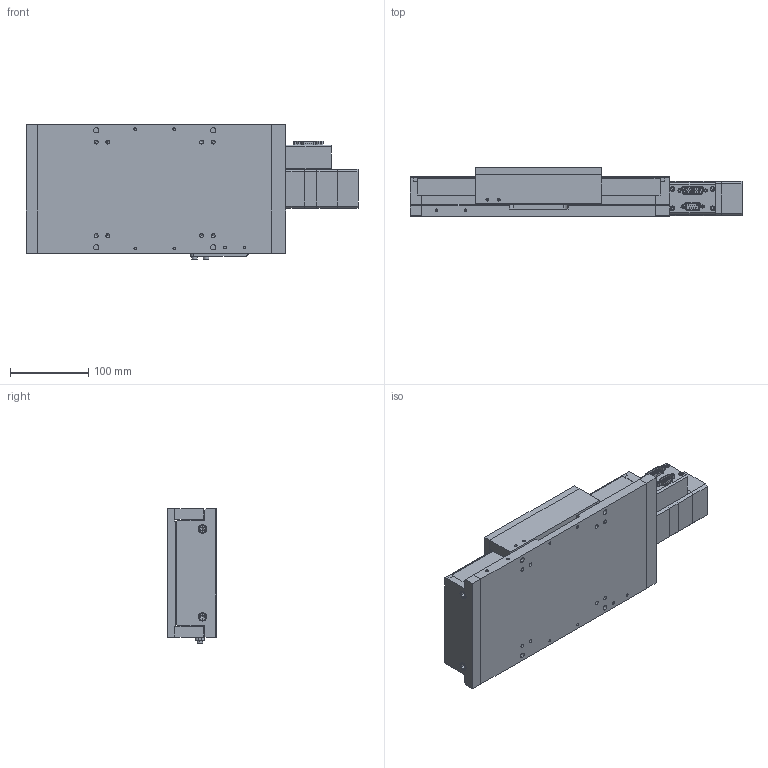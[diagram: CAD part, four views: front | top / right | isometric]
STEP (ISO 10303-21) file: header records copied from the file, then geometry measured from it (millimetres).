
FILE_DESCRIPTION (( 'STEP AP214' ), '1' );
FILE_NAME ('LM3-100-BS-A-H-S-G-EXPORT.STEP', '2024-05-07T14:56:46', ( 'lab' ), ( '' ), 'SwSTEP 2.0', 'SolidWorks 2018', '' );
FILE_SCHEMA (( 'AUTOMOTIVE_DESIGN' ));
Length unit declared in the file: millimetre
Products named in the file (17): 1000007; 1000012_100; 1000009; 1000001; 1000015; 1000004; 1000005; LM3-100-BS-A-H-S-G-EXPORT; 1000014_91290A150; 1000006; 1000016; 1000013; 1000011; 1000008; 1000003_91290A148; 1000002; 1000010
Assembly tree (28 placements, depth 3):
  LM3-100-BS-A-H-S-G-EXPORT
    1000016
      1000004
      1000005
      1000006
      1000007
      1000008
      1000009  x4
      1000010
      1000011
      1000012_100
      1000013
      1000014_91290A150  x8
      1000015
      1000003_91290A148  x2
      1000001  x2
      1000002
Bounding box: 425.6 x 62 x 173 mm (x, y, z)
Volume: 3102513.4 mm3; surface area: 356486.2 mm2
Topology: 79 solids, 79 shells, 1702 faces, 3886 edges, 2394 vertices
Faces by surface type: plane 899, cylinder 441, cone 192, bspline 170
Entity records: 51907 total; most frequent: CARTESIAN_POINT 12970, DIRECTION 6490, ORIENTED_EDGE 6376, EDGE_CURVE 3188, AXIS2_PLACEMENT_3D 2279, VERTEX_POINT 2031, VECTOR 1932, LINE 1932
